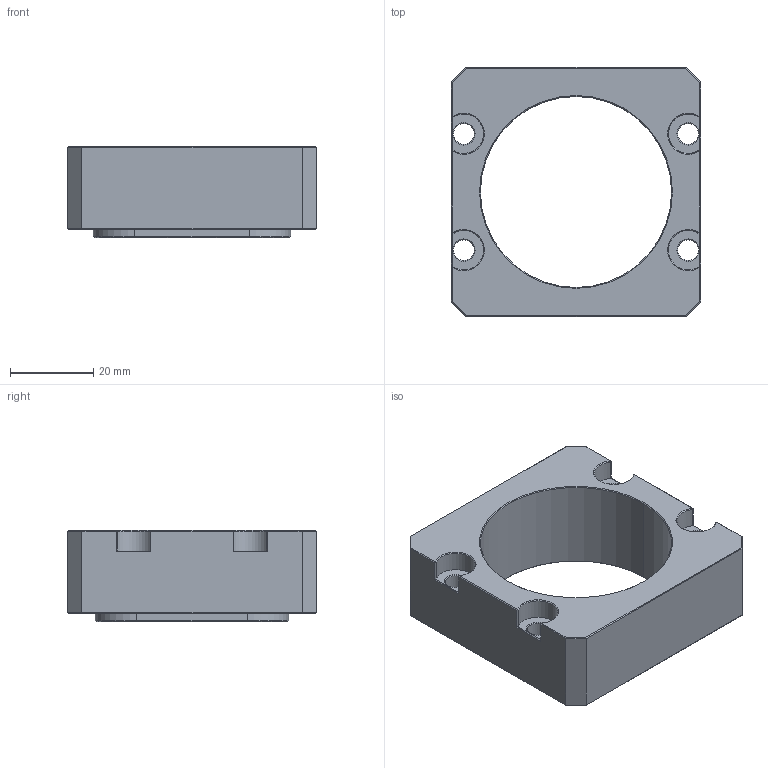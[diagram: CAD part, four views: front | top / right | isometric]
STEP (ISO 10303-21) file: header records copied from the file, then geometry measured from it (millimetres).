
FILE_DESCRIPTION((''),'2;1');
FILE_NAME('PI60','2017-05-26T',('Owner'),(''),'PRO/ENGINEER BY PARAMETRIC TECHNOLOGY CORPORATION, 2009440','PRO/ENGINEER BY PARAMETRIC TECHNOLOGY CORPORATION, 2009440','');
FILE_SCHEMA(('CONFIG_CONTROL_DESIGN'));
Length unit declared in the file: millimetre
Products named in the file (1): PI60
Bounding box: 60 x 60 x 22 mm (x, y, z)
Volume: 36752.8 mm3; surface area: 12902.6 mm2
Topology: 1 solids, 1 shells, 101 faces, 252 edges, 153 vertices
Faces by surface type: plane 55, cone 28, cylinder 18
Entity records: 3055 total; most frequent: CARTESIAN_POINT 587, ORIENTED_EDGE 504, DIRECTION 502, EDGE_CURVE 252, VECTOR 168, LINE 168, AXIS2_PLACEMENT_3D 167, VERTEX_POINT 153
